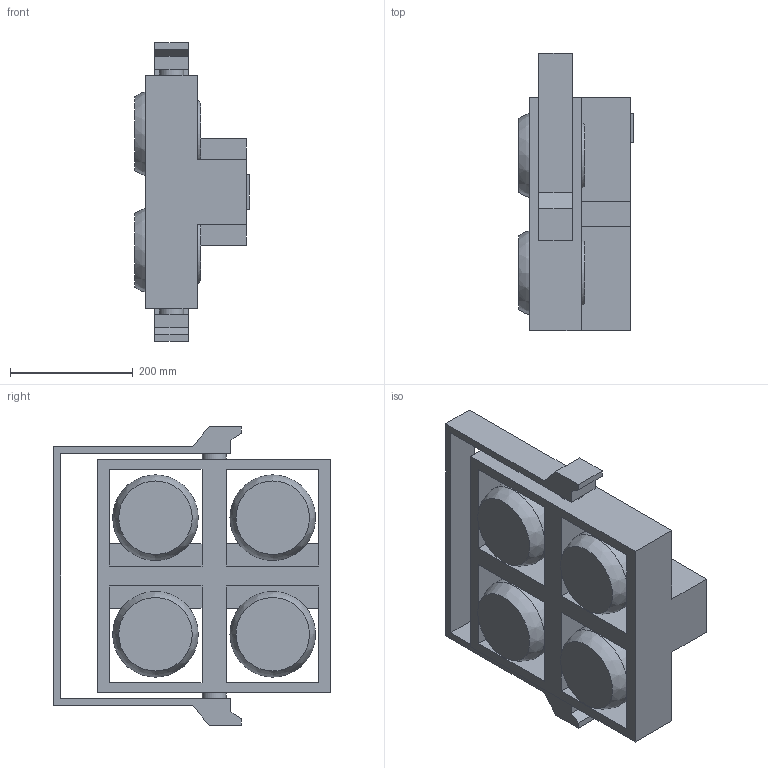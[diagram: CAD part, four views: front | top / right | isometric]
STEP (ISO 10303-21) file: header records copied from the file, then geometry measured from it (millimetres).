
FILE_DESCRIPTION(/* description */ (''),/* implementation_level */ '2;1');
FILE_NAME(/* name */ 'Strike Array 4C_0.stp',/* time_stamp */ '2024-02-07T14:32:55-05:00',/* author */ ('chenry'),/* organization */ (''),/* preprocessor_version */ 'ST-DEVELOPER v20',/* originating_system */ 'Autodesk Inventor 2024',/* authorisation */ '');
FILE_SCHEMA (('AUTOMOTIVE_DESIGN { 1 0 10303 214 3 1 1 }'));
Length unit declared in the file: millimetre
Products named in the file (3): Strike Array 4C; Body; Bracket
Assembly tree (2 placements, depth 2):
  Strike Array 4C
    Body
    Bracket
Bounding box: 186.74 x 452 x 486 mm (x, y, z)
Volume: 14465739.1 mm3; surface area: 988593.6 mm2
Topology: 6 solids, 6 shells, 85 faces, 212 edges, 140 vertices
Faces by surface type: plane 69, cylinder 8, bspline 8
Full cylindrical faces by diameter (mm): 39.412 x4, 139.449 x4
Entity records: 2827 total; most frequent: CARTESIAN_POINT 650, ORIENTED_EDGE 424, DIRECTION 416, EDGE_CURVE 212, LINE 172, VECTOR 172, VERTEX_POINT 140, AXIS2_PLACEMENT_3D 122
